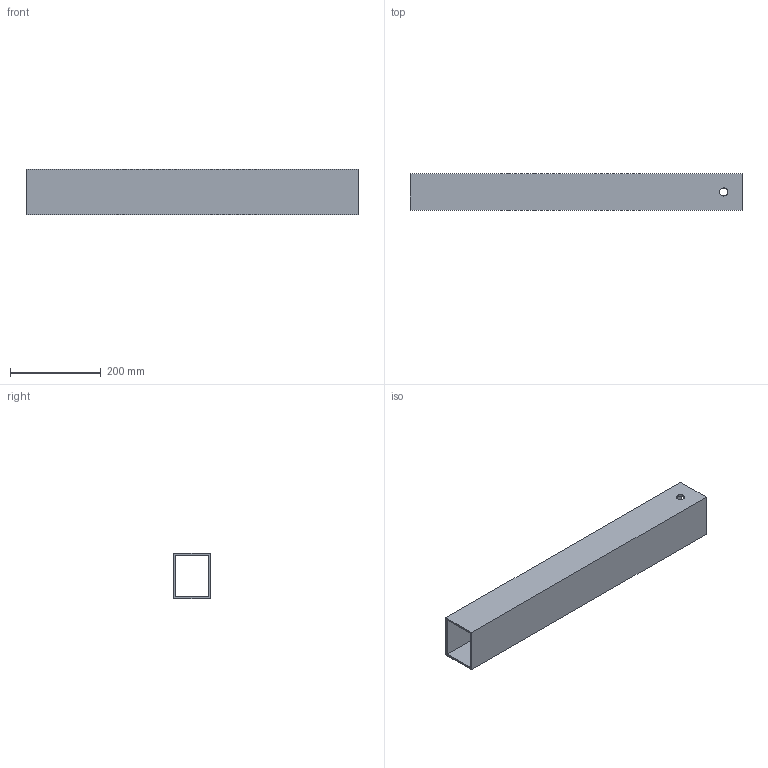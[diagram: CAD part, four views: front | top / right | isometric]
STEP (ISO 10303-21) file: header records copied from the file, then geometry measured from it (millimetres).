
FILE_DESCRIPTION(('golf model'),'2;1');
FILE_NAME('golf','',(''),(''),'golf_step_io','golf','');
FILE_SCHEMA(('AUTOMOTIVE_DESIGN { 1 0 10303 214 1 1 1 1 }'));
Length unit declared in the file: millimetre
Products named in the file (2): ASSEMBLY; cabinet_stand.stub_rear
Assembly tree (1 placements, depth 2):
  ASSEMBLY
    cabinet_stand.stub_rear
Bounding box: 731 x 80 x 100 mm (x, y, z)
Volume: 1003820.2 mm3; surface area: 505114.5 mm2
Topology: 1 solids, 1 shells, 12 faces, 30 edges, 20 vertices
Faces by surface type: plane 10, cylinder 2
Full cylindrical faces by diameter (mm): 18 x2
Entity records: 394 total; most frequent: CARTESIAN_POINT 62, DIRECTION 60, ORIENTED_EDGE 56, EDGE_CURVE 28, VECTOR 24, LINE 24, VERTEX_POINT 20, EDGE_LOOP 20
